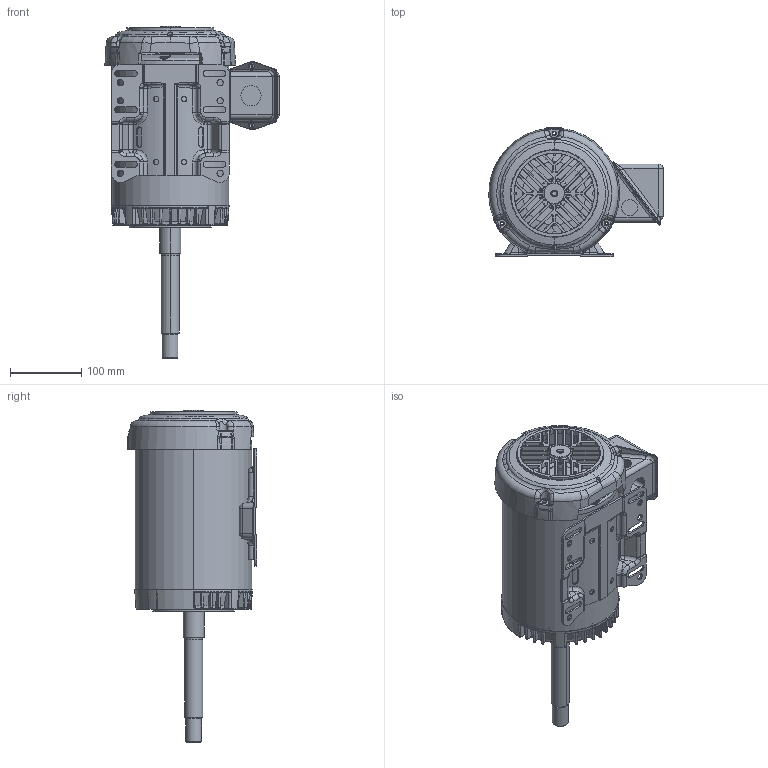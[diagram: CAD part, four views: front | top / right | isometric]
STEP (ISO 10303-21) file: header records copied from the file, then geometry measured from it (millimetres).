
FILE_DESCRIPTION((''),'2;1');
FILE_NAME('140_CCP_ASM_ASM','2016-02-24T',('emd2341'),('Nidec Motor Corporation'),'PRO/ENGINEER BY PARAMETRIC TECHNOLOGY CORPORATION, 2013150','PRO/ENGINEER BY PARAMETRIC TECHNOLOGY CORPORATION, 2013150','');
FILE_SCHEMA(('CONFIG_CONTROL_DESIGN'));
Length unit declared in the file: inch
Products named in the file (15): 145_FRAME; 0399601; 0912536; 0387280-BKT_AF0; I20258935000_AF0; 0387281_ASM; 0343740; B35796439; C18747690_ENCL_AF0; C18747690_INS6_AF0; S33749494_05_ASM; 0345786; 0027197; 2022996; 140_CCP_ASM_ASM
Assembly tree (14 placements, depth 3):
  140_CCP_ASM_ASM
    145_FRAME
    0399601
    0912536
    0387281_ASM
      0387280-BKT_AF0
      I20258935000_AF0
    0343740
    B35796439
    S33749494_05_ASM
      C18747690_ENCL_AF0
      C18747690_INS6_AF0
    0345786
    0027197
    2022996
Bounding box: 244.13 x 180.78 x 465 mm (x, y, z)
Volume: 1003256.4 mm3; surface area: 640747.4 mm2
Topology: 14 solids, 14 shells, 3038 faces, 7527 edges, 4516 vertices
Faces by surface type: bspline 1091, cylinder 604, plane 602, torus 361, cone 278, sphere 100, revolution 2
Entity records: 134705 total; most frequent: CARTESIAN_POINT 70281, ORIENTED_EDGE 15026, DIRECTION 11482, EDGE_CURVE 7513, AXIS2_PLACEMENT_3D 4878, VERTEX_POINT 4516, EDGE_LOOP 3211, FACE_OUTER_BOUND 3038
